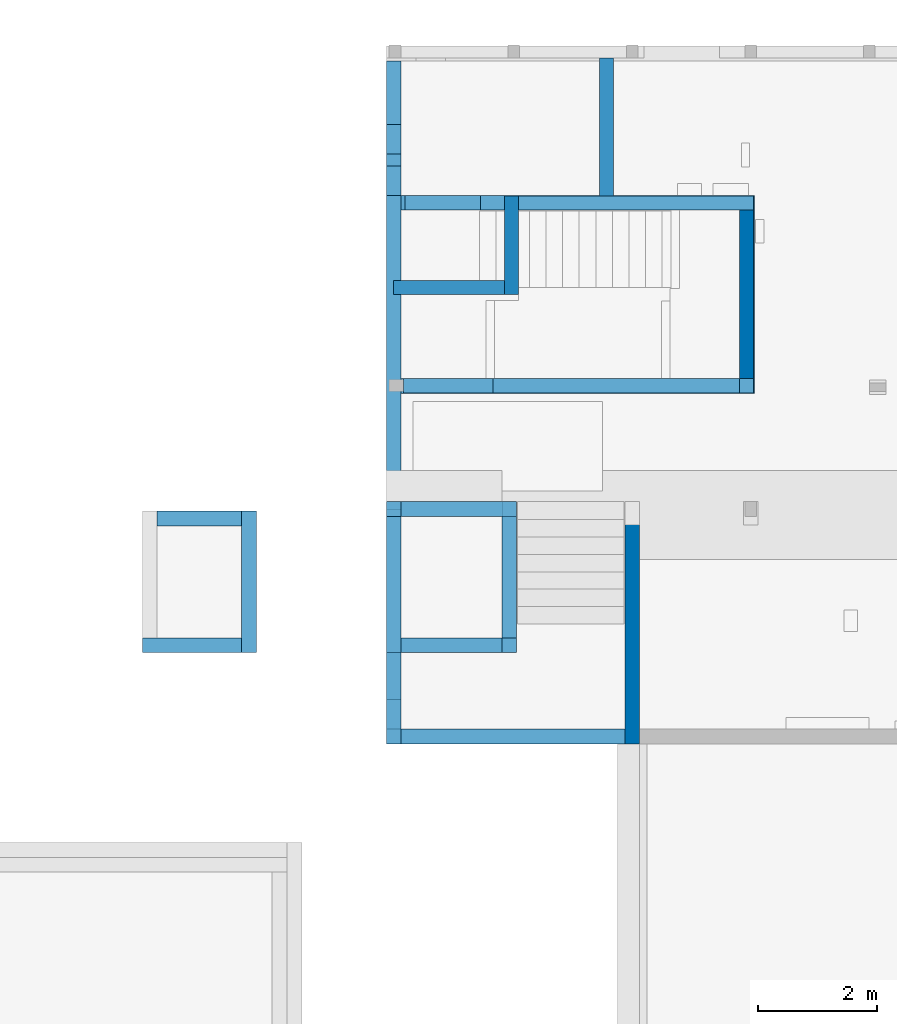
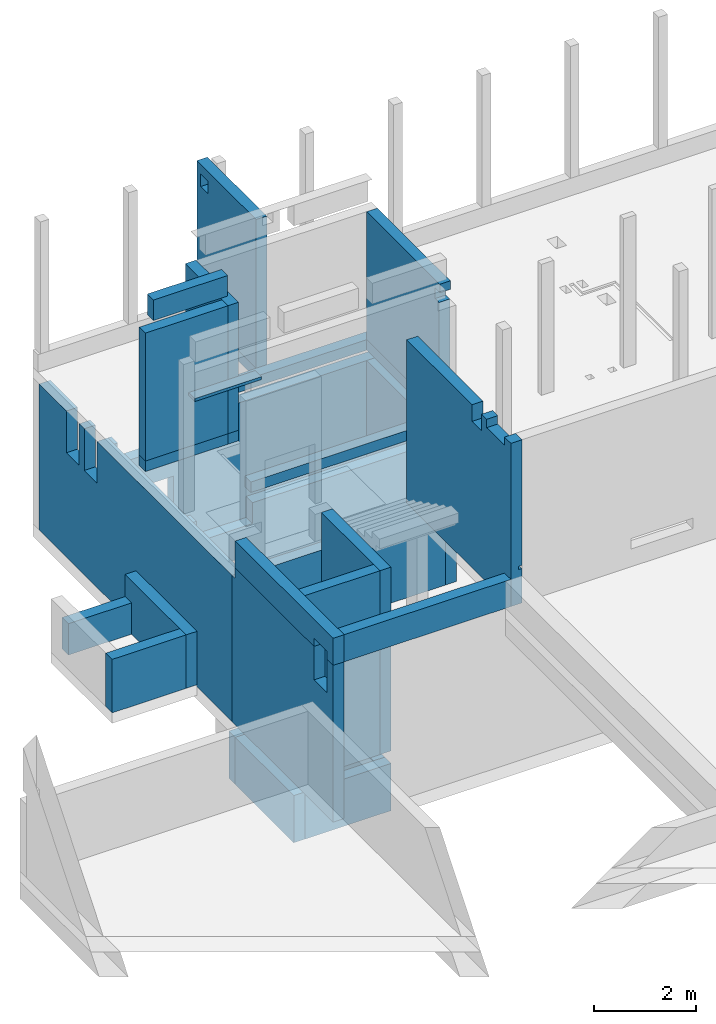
# One storey, part 7 of 12: 29 walls, 16 openings.
"""IFC2X3 building model written with IfcOpenShell, lengths in metres."""

from ifc_helpers import new_model, entity, si_unit, converted_unit, direction, frame, frame_2d, origin, place, context, subcontext, project, spatial, polyline, rectangle, outline, extrude, clip, bounded_halfspace, material, layer, layer_set, layer_usage, type_object, element, save


model = new_model("IFC2X3")

# Units and contexts
model_context = context("Model", 3, precision=1e-05, world=frame((30.086303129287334, 2.687674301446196, 462.0)), true_north=direction((0.19008937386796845, 0.9817667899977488)))
body_context = subcontext(model_context, "Body", "Model", "MODEL_VIEW")
ifc_project = project(units=[si_unit("LENGTHUNIT", "METRE"), si_unit("AREAUNIT", "SQUARE_METRE"), converted_unit("PLANEANGLEUNIT", "DEGREE", entity("IfcPlaneAngleMeasure", 0.017453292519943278), si_unit("PLANEANGLEUNIT", "RADIAN"), dimensions=[0, 0, 0, 0, 0, 0, 0]), si_unit("VOLUMEUNIT", "CUBIC_METRE")], contexts=[model_context])

# Site, building, storey
site_placement = place(None, origin())
site = spatial("IfcSite", under=ifc_project, at=site_placement, Name="Default", CompositionType="ELEMENT")
building_placement = place(site_placement, origin())
building = spatial("IfcBuilding", under=site, at=building_placement, CompositionType="ELEMENT")
storey_placement = place(building_placement, frame((0.0, 0.0, -3.800000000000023)))
storey = spatial("IfcBuildingStorey", under=building, at=storey_placement, Name="FB_U01_OKFB", CompositionType="ELEMENT", Elevation=-3.800000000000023)

# Wall, opening
ifc_material_1 = material(Name="WS_CONCRETE_REINFORCED_WATERTIGHT")
ifc_layer_1 = layer(ifc_material_1, 0.24999999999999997)
ifc_layer_set_1 = layer_set([ifc_layer_1], Name="Basiswand:WS_WAL_CON_250_WT")
ifc_layer_usage_1 = layer_usage(ifc_layer_set_1, "AXIS2", "NEGATIVE", 0.12499999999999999)
wall_type_1 = type_object("IfcWallType", Name="Basiswand:WS_WAL_CON_250_WT", PredefinedType="STANDARD", material=ifc_layer_set_1)
wall_1_placement = place(storey_placement, frame((46.08033900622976, -5.25964843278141, -0.0699999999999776), z_axis=(0.0, 0.0, 1.0), x_axis=(0.0, 1.0, 0.0)))
wall_1 = element("IfcWallStandardCase", 1, at=wall_1_placement, inside=storey, type_object=wall_type_1, material=ifc_layer_usage_1, Name="Basiswand:WS_WAL_CON_250_WT", ObjectType="Basiswand:WS_WAL_CON_250_WT", context=body_context, shape_type="Clipping", body=[
    clip(clip(extrude(rectangle(XDim=3.9650006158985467, YDim=0.25000000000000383, at=frame_2d((1.9825003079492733, -4.336808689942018e-15), x_axis=(-1.0, 0.0))), origin(), (0.0, 0.0, 1.0), 3.7500000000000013), bounded_halfspace(frame((3.840000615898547, 0.12499999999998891, 3.500000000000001), z_axis=(0.0, 0.0, -1.0), x_axis=(-1.0, 0.0, 0.0)), True, frame((3.840000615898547, 0.12499999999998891, 3.500000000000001), z_axis=(0.0, 0.0, -1.0), x_axis=(-1.0, 0.0, 0.0)), polyline([(0.0, 0.0), (-0.12499999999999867, 0.0), (-0.12499999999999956, -0.24999999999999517), (0.0, -0.24999999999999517), (0.0, 0.0)]))), bounded_halfspace(frame((3.840000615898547, -0.12500000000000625, 3.500000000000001), z_axis=(-1.0, 0.0, 0.0), x_axis=(0.0, 0.0, 1.0)), True, frame((3.840000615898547, -0.12500000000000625, 3.500000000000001), z_axis=(-1.0, 0.0, 0.0), x_axis=(0.0, 0.0, 1.0)), polyline([(0.0, 0.0), (0.0762, 0.0), (0.0762, 0.07620000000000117), (0.0, 0.07620000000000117), (0.0, 0.0)]))),
])
opening_1_placement = place(wall_1_placement, origin())
element("IfcOpeningElement", 2, at=opening_1_placement, cuts=wall_1, Name="Basiswand:WS_WAL_CON_250_WT", ObjectType="Opening", context=body_context, shape_type="SweptSolid", body=[
    extrude(rectangle(XDim=0.9999999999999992, YDim=0.49999999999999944, at=frame_2d((0.0, -2.636779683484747e-16), x_axis=(1.0, 0.0))), frame((0.499999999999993, -0.12500000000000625, 3.44999999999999), z_axis=(0.0, 1.0, 0.0), x_axis=(0.0, 0.0, -1.0)), (0.0, 0.0, 1.0), 0.24999999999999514),
])

# Walls
ifc_layer_usage_2 = layer_usage(ifc_layer_set_1, "AXIS2", "NEGATIVE", 0.12499999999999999)
wall_2_placement = place(storey_placement, frame((45.955339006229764, -1.2946478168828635, -1.4999999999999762)))
element("IfcWallStandardCase", 3, at=wall_2_placement, inside=storey, type_object=wall_type_1, material=ifc_layer_usage_2, Name="Basiswand:WS_WAL_CON_250_WT", ObjectType="Basiswand:WS_WAL_CON_250_WT", context=body_context, shape_type="Clipping", body=[
    clip(extrude(rectangle(XDim=1.9499996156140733, YDim=0.25, at=frame_2d((0.9749998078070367, 0.0), x_axis=(-1.0, 0.0))), origin(), (0.0, 0.0, 1.0), 1.1299999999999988), bounded_halfspace(frame((0.24999999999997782, -0.125, 1.1299999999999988), z_axis=(0.0, 0.0, -1.0), x_axis=(-1.0, 0.0, 0.0)), True, frame((0.24999999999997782, -0.125, 1.1299999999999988), z_axis=(0.0, 0.0, -1.0), x_axis=(-1.0, 0.0, 0.0)), polyline([(0.0, 0.0), (0.24999999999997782, 0.0), (0.24999999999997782, 0.25), (-1.6999996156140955, 0.25), (-1.6999996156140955, 0.0), (0.0, 0.0)]))),
])
ifc_layer_usage_3 = layer_usage(ifc_layer_set_1, "AXIS2", "NEGATIVE", 0.12499999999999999)
wall_3_placement = place(storey_placement, frame((46.080339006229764, -3.719608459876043, -1.4999999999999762), z_axis=(0.0, 0.0, 1.0), x_axis=(0.0, 1.0, 0.0)))
element("IfcWallStandardCase", 4, at=wall_3_placement, inside=storey, type_object=wall_type_1, material=ifc_layer_usage_3, Name="Basiswand:WS_WAL_CON_250_WT", ObjectType="Basiswand:WS_WAL_CON_250_WT", context=body_context, shape_type="Clipping", body=[
    clip(extrude(rectangle(XDim=2.2999606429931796, YDim=0.24999999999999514, at=frame_2d((1.1499803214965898, 0.0), x_axis=(-1.0, 0.0))), origin(), (0.0, 0.0, 1.0), 1.1299999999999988), bounded_halfspace(frame((0.24999999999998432, -0.12500000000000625, 1.1299999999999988), z_axis=(0.0, 0.0, -1.0), x_axis=(0.0, 1.0, 0.0)), True, frame((0.24999999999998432, -0.12500000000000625, 1.1299999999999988), z_axis=(0.0, 0.0, -1.0), x_axis=(0.0, 1.0, 0.0)), polyline([(0.0, 0.0), (0.0, -0.24999999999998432), (0.25000000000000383, -0.24999999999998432), (0.25000000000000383, 2.049960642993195), (0.0, 2.049960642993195), (0.0, 0.0)]))),
])
ifc_layer_usage_4 = layer_usage(ifc_layer_set_1, "AXIS2", "NEGATIVE", 0.12499999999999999)
wall_4_placement = place(storey_placement, frame((48.15533862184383, -3.5946084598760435, -1.4999999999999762), z_axis=(0.0, 0.0, 1.0), x_axis=(-1.0, 0.0, 0.0)))
element("IfcWallStandardCase", 5, at=wall_4_placement, inside=storey, type_object=wall_type_1, material=ifc_layer_usage_4, Name="Basiswand:WS_WAL_CON_250_WT", ObjectType="Basiswand:WS_WAL_CON_250_WT", context=body_context, shape_type="Clipping", body=[
    clip(extrude(rectangle(XDim=1.9499996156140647, YDim=0.24999999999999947, at=frame_2d((0.9749998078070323, 0.0), x_axis=(-1.0, 0.0))), origin(), (0.0, 0.0, 1.0), 1.1299999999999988), bounded_halfspace(frame((0.2499999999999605, -0.12500000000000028, 1.1299999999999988), z_axis=(0.0, 0.0, -1.0), x_axis=(1.0, 0.0, 0.0)), True, frame((0.2499999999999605, -0.12500000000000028, 1.1299999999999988), z_axis=(0.0, 0.0, -1.0), x_axis=(1.0, 0.0, 0.0)), polyline([(0.0, 0.0), (-0.2499999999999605, 0.0), (-0.2499999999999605, -0.25), (1.6999996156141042, -0.25), (1.6999996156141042, 0.0), (0.0, 0.0)]))),
])
ifc_layer_usage_5 = layer_usage(ifc_layer_set_1, "AXIS2", "NEGATIVE", 0.12499999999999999)
wall_5_placement = place(storey_placement, frame((48.030338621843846, -1.169647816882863, -1.4999999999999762), z_axis=(0.0, 0.0, 1.0), x_axis=(0.0, -1.0, 0.0)))
element("IfcWallStandardCase", 6, at=wall_5_placement, inside=storey, type_object=wall_type_1, material=ifc_layer_usage_5, Name="Basiswand:WS_WAL_CON_250_WT", ObjectType="Basiswand:WS_WAL_CON_250_WT", context=body_context, shape_type="Clipping", body=[
    clip(extrude(rectangle(XDim=2.299960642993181, YDim=0.24999999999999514, at=frame_2d((1.1499803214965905, 0.0), x_axis=(-1.0, 0.0))), origin(), (0.0, 0.0, 1.0), 1.1299999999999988), bounded_halfspace(frame((0.25000000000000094, -0.12500000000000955, 1.1299999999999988), z_axis=(0.0, 0.0, -1.0), x_axis=(0.0, -1.0, 0.0)), True, frame((0.25000000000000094, -0.12500000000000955, 1.1299999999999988), z_axis=(0.0, 0.0, -1.0), x_axis=(0.0, -1.0, 0.0)), polyline([(0.0, 0.0), (0.0, 0.25), (-0.2500000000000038, 0.25000000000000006), (-0.2500000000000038, -0.7249999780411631), (-0.24999999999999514, -2.0499606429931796), (0.0, -2.04996064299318), (0.0, 0.0)]))),
])

# Wall, opening
ifc_layer_usage_6 = layer_usage(ifc_layer_set_1, "AXIS2", "NEGATIVE", 0.12499999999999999)
wall_6_placement = place(storey_placement, frame((46.080339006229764, -1.419647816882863, 3.6800000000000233), z_axis=(0.0, 0.0, 1.0), x_axis=(0.0, -1.0, 0.0)))
wall_6 = element("IfcWallStandardCase", 7, at=wall_6_placement, inside=storey, type_object=wall_type_1, material=ifc_layer_usage_6, Name="Basiswand:WS_WAL_CON_250_WT", ObjectType="Basiswand:WS_WAL_CON_250_WT", context=body_context, shape_type="SweptSolid", body=[
    extrude(rectangle(XDim=3.840000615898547, YDim=0.25000000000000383, at=frame_2d((1.9200003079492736, -4.336808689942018e-15), x_axis=(1.0, 0.0))), origin(), (0.0, 0.0, 1.0), 0.6499999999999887),
])
opening_2_placement = place(wall_6_placement, origin())
element("IfcOpeningElement", 8, at=opening_2_placement, cuts=wall_6, Name="Basiswand:WS_WAL_CON_250_WT", ObjectType="Opening", context=body_context, shape_type="SweptSolid", body=[
    extrude(rectangle(XDim=0.9999999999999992, YDim=0.49999999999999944, at=frame_2d((0.0, 2.636779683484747e-16), x_axis=(1.0, 0.0))), frame((3.340000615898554, -0.12499999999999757, -0.300000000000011), z_axis=(0.0, 1.0, 0.0), x_axis=(0.0, 0.0, -1.0)), (0.0, 0.0, 1.0), 0.24999999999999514),
])

# Wall
ifc_layer_usage_7 = layer_usage(ifc_layer_set_1, "AXIS2", "NEGATIVE", 0.12499999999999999)
wall_7_placement = place(storey_placement, frame((46.205339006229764, -5.134648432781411, 3.6800000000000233)))
element("IfcWallStandardCase", 9, at=wall_7_placement, inside=storey, type_object=wall_type_1, material=ifc_layer_usage_7, Name="Basiswand:WS_WAL_CON_250_WT", ObjectType="Basiswand:WS_WAL_CON_250_WT", context=body_context, shape_type="SweptSolid", body=[
    extrude(rectangle(XDim=3.7749984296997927, YDim=0.24999999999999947, at=frame_2d((1.8874992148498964, 1.3183898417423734e-16), x_axis=(-1.0, 0.0))), origin(), (0.0, 0.0, 1.0), 0.6499999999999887),
])

# Wall, openings
ifc_layer_usage_8 = layer_usage(ifc_layer_set_1, "AXIS2", "NEGATIVE", 0.12499999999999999)
wall_8_placement = place(storey_placement, frame((46.08033900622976, -1.2946478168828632, -0.0699999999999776), z_axis=(0.0, 0.0, 1.0), x_axis=(0.0, 1.0, 0.0)))
wall_8 = element("IfcWallStandardCase", 10, at=wall_8_placement, inside=storey, type_object=wall_type_1, material=ifc_layer_usage_8, Name="Basiswand:WS_WAL_CON_250_WT", ObjectType="Basiswand:WS_WAL_CON_250_WT", context=body_context, shape_type="SweptSolid", body=[
    extrude(rectangle(XDim=7.559998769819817, YDim=0.25000000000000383, at=frame_2d((3.7799993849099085, -4.336808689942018e-15), x_axis=(-1.0, 0.0))), origin(), (0.0, 0.0, 1.0), 3.5000000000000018),
])
opening_3_placement = place(wall_8_placement, origin())
element("IfcOpeningElement", 11, at=opening_3_placement, cuts=wall_8, Name="Basiswand:WS_WAL_CON_250_WT", ObjectType="Opening", context=body_context, shape_type="SweptSolid", body=[
    extrude(rectangle(XDim=0.9999999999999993, YDim=0.5, at=frame_2d((-1.3877787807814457e-16, 0.0), x_axis=(1.0, 0.0))), frame((5.539998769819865, -0.12499999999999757, 3.0), z_axis=(0.0, 1.0, 0.0), x_axis=(0.0, 0.0, -1.0)), (0.0, 0.0, 1.0), 0.24999999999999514),
])
opening_4_placement = place(wall_8_placement, origin())
element("IfcOpeningElement", 12, at=opening_4_placement, cuts=wall_8, Name="Basiswand:WS_WAL_CON_250_WT", ObjectType="Opening", context=body_context, shape_type="SweptSolid", body=[
    extrude(rectangle(XDim=0.9999999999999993, YDim=0.5, at=frame_2d((-1.3877787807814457e-16, 1.0824674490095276e-15), x_axis=(1.0, 0.0))), frame((6.2399987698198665, -0.12499999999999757, 3.0), z_axis=(0.0, 1.0, 0.0), x_axis=(0.0, 0.0, -1.0)), (0.0, 0.0, 1.0), 0.24999999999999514),
])

# Wall, opening
ifc_material_2 = material(Name="WS_CONCRETE_REINFORCED")
ifc_layer_2 = layer(ifc_material_2, 0.24999999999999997)
ifc_layer_set_2 = layer_set([ifc_layer_2], Name="Basiswand:WS_WAL_CON_250")
ifc_layer_usage_9 = layer_usage(ifc_layer_set_2, "AXIS2", "NEGATIVE", 0.12499999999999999)
wall_type_2 = type_object("IfcWallType", Name="Basiswand:WS_WAL_CON_250", PredefinedType="STANDARD", material=ifc_layer_set_2)
wall_9_placement = place(storey_placement, frame((46.205339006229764, -1.2946478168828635, -0.0699999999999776)))
wall_9 = element("IfcWallStandardCase", 13, at=wall_9_placement, inside=storey, type_object=wall_type_2, material=ifc_layer_usage_9, Name="Basiswand:WS_WAL_CON_250", ObjectType="Basiswand:WS_WAL_CON_250", context=body_context, shape_type="SweptSolid", body=[
    extrude(rectangle(XDim=1.949999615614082, YDim=0.2500000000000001, at=frame_2d((0.974999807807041, 2.7755575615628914e-17), x_axis=(-1.0, 0.0))), origin(), (0.0, 0.0, 1.0), 3.500000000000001),
])
opening_5_placement = place(wall_9_placement, frame((-46.205339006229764, 1.2946478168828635, 0.06999999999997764)))
element("IfcOpeningElement", 14, at=opening_5_placement, cuts=wall_9, Name="Basiswand:WS_WAL_CON_250", ObjectType="Opening", context=body_context, shape_type="SweptSolid", body=[
    extrude(rectangle(XDim=2.219999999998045, YDim=1.22, at=frame_2d((1.1102230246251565e-16, 0.0), x_axis=(1.0, 0.0))), frame((47.155338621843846, -2.6936478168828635, 1.0399999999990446), z_axis=(0.0, 1.0, 0.0), x_axis=(0.0, 0.0, 1.0)), (0.0, 0.0, 1.0), 3.048),
])

# Walls
ifc_layer_usage_10 = layer_usage(ifc_layer_set_2, "AXIS2", "NEGATIVE", 0.12499999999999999)
wall_10_placement = place(storey_placement, frame((48.030338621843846, -1.4196478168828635, -0.0699999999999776), z_axis=(0.0, 0.0, 1.0), x_axis=(0.0, -1.0, 0.0)))
element("IfcWallStandardCase", 15, at=wall_10_placement, inside=storey, type_object=wall_type_2, material=ifc_layer_usage_10, Name="Basiswand:WS_WAL_CON_250", ObjectType="Basiswand:WS_WAL_CON_250", context=body_context, shape_type="SweptSolid", body=[
    extrude(rectangle(XDim=2.2999606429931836, YDim=0.24999999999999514, at=frame_2d((1.1499803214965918, 0.0), x_axis=(-1.0, 0.0))), origin(), (0.0, 0.0, 1.0), 4.39999999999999),
])
ifc_layer_usage_11 = layer_usage(ifc_layer_set_2, "AXIS2", "NEGATIVE", 0.12499999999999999)
wall_11_placement = place(storey_placement, frame((47.90533862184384, -3.5946084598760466, -0.0699999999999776), z_axis=(0.0, 0.0, 1.0), x_axis=(-1.0, 0.0, 0.0)))
element("IfcWallStandardCase", 16, at=wall_11_placement, inside=storey, type_object=wall_type_2, material=ifc_layer_usage_11, Name="Basiswand:WS_WAL_CON_250", ObjectType="Basiswand:WS_WAL_CON_250", context=body_context, shape_type="SweptSolid", body=[
    extrude(rectangle(XDim=1.6999996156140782, YDim=0.24999999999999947, at=frame_2d((0.8499998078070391, 0.0), x_axis=(-1.0, 0.0))), origin(), (0.0, 0.0, 1.0), 4.39999999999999),
])

# Wall, openings
ifc_layer_usage_12 = layer_usage(ifc_layer_set_2, "AXIS2", "POSITIVE", -0.12499999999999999)
wall_12_placement = place(storey_placement, frame((50.10533743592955, -5.2596484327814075, 3.6800000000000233), z_axis=(0.0, 0.0, 1.0), x_axis=(0.0, 1.0, 0.0)))
wall_12 = element("IfcWallStandardCase", 17, at=wall_12_placement, inside=storey, type_object=wall_type_2, material=ifc_layer_usage_12, Name="Basiswand:WS_WAL_CON_250", ObjectType="Basiswand:WS_WAL_CON_250", context=body_context, shape_type="Clipping", body=[
    clip(extrude(rectangle(XDim=4.090000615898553, YDim=0.2500000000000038, at=frame_2d((2.0450003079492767, -5.5164206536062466e-15), x_axis=(-1.0, 0.0))), origin(), (0.0, 0.0, 1.0), 3.905), bounded_halfspace(frame((2.1400006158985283, -0.12499999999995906, 0.8999999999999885), z_axis=(1.0, 0.0, 0.0), x_axis=(0.0, 0.0, 1.0)), True, frame((2.1400006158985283, -0.12499999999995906, 0.8999999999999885), z_axis=(1.0, 0.0, 0.0), x_axis=(0.0, 0.0, 1.0)), polyline([(0.0, 0.0), (-0.07620000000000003, 0.0), (-0.07620000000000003, -0.07619999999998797), (-0.03657600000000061, -0.07619999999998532), (0.0, -0.07619999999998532), (0.0, 0.0)]))),
])
opening_6_placement = place(wall_12_placement, origin())
element("IfcOpeningElement", 18, at=opening_6_placement, cuts=wall_12, Name="Basiswand:WS_WAL_CON_250", ObjectType="Opening", context=body_context, shape_type="SweptSolid", body=[
    extrude(rectangle(XDim=0.2, YDim=0.6993435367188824, at=frame_2d((2.706168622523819e-16, 2.7755575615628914e-16), x_axis=(1.0, 0.0))), frame((0.6003282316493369, -0.12499992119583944, 3.80500000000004), z_axis=(0.0, 1.0, 0.0), x_axis=(0.0, 0.0, -1.0)), (0.0, 0.0, 1.0), 0.24999999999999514),
])
opening_7_placement = place(wall_12_placement, origin())
element("IfcOpeningElement", 19, at=opening_7_placement, cuts=wall_12, Name="Basiswand:WS_WAL_CON_250", ObjectType="Opening", context=body_context, shape_type="SweptSolid", body=[
    extrude(rectangle(XDim=0.40000000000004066, YDim=0.3750399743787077, at=frame_2d((2.7755575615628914e-16, -2.7755575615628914e-16), x_axis=(1.0, 0.0))), frame((1.3381764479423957, -0.1250000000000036, 3.70500000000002), z_axis=(0.0, 1.0, 0.0), x_axis=(0.0, 0.0, -1.0)), (0.0, 0.0, 1.0), 0.24999999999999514),
])

# Walls
ifc_layer_usage_13 = layer_usage(ifc_layer_set_2, "AXIS2", "NEGATIVE", 0.12499999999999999)
wall_13_placement = place(storey_placement, frame((43.6403329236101, -1.32964779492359, 3.050000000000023), z_axis=(0.0, 0.0, 1.0), x_axis=(0.0, -1.0, 0.0)))
element("IfcWallStandardCase", 20, at=wall_13_placement, inside=storey, type_object=wall_type_2, material=ifc_layer_usage_13, Name="Basiswand:WS_WAL_CON_250", ObjectType="Basiswand:WS_WAL_CON_250", context=body_context, shape_type="Clipping", body=[
    clip(extrude(rectangle(XDim=2.3899606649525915, YDim=0.24999999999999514, at=frame_2d((1.1949803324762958, 0.0), x_axis=(-1.0, 0.0))), origin(), (0.0, 0.0, 1.0), 1.2799999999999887), bounded_halfspace(frame((2.1399606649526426, -0.12500000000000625, 1.2799999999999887), z_axis=(0.0, 0.0, -1.0), x_axis=(0.0, -1.0, 0.0)), True, frame((2.1399606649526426, -0.12500000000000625, 1.2799999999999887), z_axis=(0.0, 0.0, -1.0), x_axis=(0.0, -1.0, 0.0)), polyline([(0.0, 0.0), (0.0, 2.1399606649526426), (-0.25000000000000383, 2.1399606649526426), (-0.25000000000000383, 1.639960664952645), (-0.25000000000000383, -0.24999999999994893), (0.0, -0.24999999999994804), (0.0, 0.0)]))),
])
ifc_layer_usage_14 = layer_usage(ifc_layer_set_2, "AXIS2", "NEGATIVE", 0.12499999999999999)
wall_14_placement = place(storey_placement, frame((43.515332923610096, -3.594608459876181, 3.050000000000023), z_axis=(0.0, 0.0, 1.0), x_axis=(-1.0, 0.0, 0.0)))
element("IfcWallStandardCase", 21, at=wall_14_placement, inside=storey, type_object=wall_type_2, material=ifc_layer_usage_14, Name="Basiswand:WS_WAL_CON_250", ObjectType="Basiswand:WS_WAL_CON_250", context=body_context, shape_type="SweptSolid", body=[
    extrude(rectangle(XDim=1.6749995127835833, YDim=0.24999999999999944, at=frame_2d((0.8374997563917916, 2.5673907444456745e-16), x_axis=(-1.0, 0.0))), origin(), (0.0, 0.0, 1.0), 1.2799999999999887),
])

# Wall, openings
ifc_layer_usage_15 = layer_usage(ifc_layer_set_2, "AXIS2", "NEGATIVE", 0.12499999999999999)
wall_15_placement = place(storey_placement, frame((46.205339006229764, 3.8703914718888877, -0.0699999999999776)))
wall_15 = element("IfcWallStandardCase", 22, at=wall_15_placement, inside=storey, type_object=wall_type_2, material=ifc_layer_usage_15, Name="Basiswand:WS_WAL_CON_250", ObjectType="Basiswand:WS_WAL_CON_250", context=body_context, shape_type="SweptSolid", body=[
    extrude(rectangle(XDim=5.959997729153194, YDim=0.25, at=frame_2d((2.979998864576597, -1.734723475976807e-16), x_axis=(1.0, 0.0))), origin(), (0.0, 0.0, 1.0), 3.5000000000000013),
])
opening_8_placement = place(wall_15_placement, origin())
element("IfcOpeningElement", 23, at=opening_8_placement, cuts=wall_15, Name="Basiswand:WS_WAL_CON_250", ObjectType="Opening", context=body_context, shape_type="SweptSolid", body=[
    extrude(rectangle(XDim=0.4999999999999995, YDim=1.2699999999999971, at=frame_2d((0.0, -4.3298697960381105e-15), x_axis=(1.0, 0.0))), frame((0.704999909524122, -0.12499999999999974, 3.2500000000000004), z_axis=(0.0, 1.0, 0.0), x_axis=(0.0, 0.0, -1.0)), (0.0, 0.0, 1.0), 0.2499999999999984),
])
opening_9_placement = place(wall_15_placement, frame((-46.205339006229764, -3.8703914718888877, 0.06999999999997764)))
element("IfcOpeningElement", 24, at=opening_9_placement, cuts=wall_15, Name="Basiswand:WS_WAL_CON_250", ObjectType="Opening", context=body_context, shape_type="SweptSolid", body=[
    extrude(rectangle(XDim=2.264999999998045, YDim=1.2700000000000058, at=frame_2d((0.0, -1.1102230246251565e-16), x_axis=(0.0, 1.0))), frame((46.9103389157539, 2.221391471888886, 1.0624999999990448), z_axis=(0.0, 1.0, 0.0), x_axis=(-1.0, 0.0, 0.0)), (0.0, 0.0, 1.0), 3.048),
])

ifc_layer_usage_16 = layer_usage(ifc_layer_set_2, "AXIS2", "NEGATIVE", 0.12499999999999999)
wall_16_placement = place(storey_placement, frame((46.205339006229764, 0.7803516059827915, -0.0699999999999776)))
wall_16 = element("IfcWallStandardCase", 25, at=wall_16_placement, inside=storey, type_object=wall_type_2, material=ifc_layer_usage_16, Name="Basiswand:WS_WAL_CON_250", ObjectType="Basiswand:WS_WAL_CON_250", context=body_context, shape_type="SweptSolid", body=[
    extrude(rectangle(XDim=0.25, YDim=5.709997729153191, at=frame_2d((2.8549988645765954, 2.0816681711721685e-17), x_axis=(0.0, -1.0))), origin(), (0.0, 0.0, 1.0), 3.500000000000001),
])
opening_10_placement = place(wall_16_placement, origin())
element("IfcOpeningElement", 26, at=opening_10_placement, cuts=wall_16, Name="Basiswand:WS_WAL_CON_250", ObjectType="Opening", context=body_context, shape_type="SweptSolid", body=[
    extrude(rectangle(XDim=0.4999999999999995, YDim=1.2699999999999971, at=frame_2d((0.0, -4.3298697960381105e-15), x_axis=(1.0, 0.0))), frame((0.7049999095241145, -0.12499999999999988, 3.2500000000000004), z_axis=(0.0, 1.0, 0.0), x_axis=(0.0, 0.0, -1.0)), (0.0, 0.0, 1.0), 0.2499999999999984),
])
opening_11_placement = place(wall_16_placement, frame((-46.205339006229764, -0.7803516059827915, 0.06999999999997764)))
element("IfcOpeningElement", 27, at=opening_11_placement, cuts=wall_16, Name="Basiswand:WS_WAL_CON_250", ObjectType="Opening", context=body_context, shape_type="SweptSolid", body=[
    extrude(rectangle(XDim=2.264999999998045, YDim=1.2700000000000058, at=frame_2d((-8.659739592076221e-15, -1.1102230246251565e-16), x_axis=(0.0, 1.0))), frame((46.910338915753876, -0.8686483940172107, 1.0624999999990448), z_axis=(0.0, 1.0, 0.0), x_axis=(-1.0, 0.0, 0.0)), (0.0, 0.0, 1.0), 3.048),
])

# Walls
ifc_layer_usage_17 = layer_usage(ifc_layer_set_2, "AXIS2", "NEGATIVE", 0.12499999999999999)
wall_17_placement = place(storey_placement, frame((52.04033673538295, 0.6553516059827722, -0.0699999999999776), z_axis=(0.0, 0.0, 1.0), x_axis=(0.0, 1.0, 0.0)))
element("IfcWallStandardCase", 28, at=wall_17_placement, inside=storey, type_object=wall_type_2, material=ifc_layer_usage_17, Name="Basiswand:WS_WAL_CON_250", ObjectType="Basiswand:WS_WAL_CON_250", context=body_context, shape_type="SweptSolid", body=[
    extrude(rectangle(XDim=3.0900398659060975, YDim=0.24999999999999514, at=frame_2d((1.5450199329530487, -1.8735013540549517e-16), x_axis=(-1.0, 0.0))), origin(), (0.0, 0.0, 1.0), 3.500000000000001),
])
ifc_layer_usage_18 = layer_usage(ifc_layer_set_2, "AXIS2", "POSITIVE", -0.12499999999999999)
wall_18_placement = place(storey_placement, frame((43.515332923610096, -1.4546477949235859, 3.050000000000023), z_axis=(0.0, 0.0, 1.0), x_axis=(-1.0, 0.0, 0.0)))
element("IfcWallStandardCase", 29, at=wall_18_placement, inside=storey, type_object=wall_type_2, material=ifc_layer_usage_18, Name="Basiswand:WS_WAL_CON_250", ObjectType="Basiswand:WS_WAL_CON_250", context=body_context, shape_type="SweptSolid", body=[
    extrude(rectangle(XDim=1.4249995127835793, YDim=0.25, at=frame_2d((0.7124997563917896, 1.249000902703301e-16), x_axis=(-1.0, 0.0))), origin(), (0.0, 0.0, 1.0), 0.7499999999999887),
])

# Wall, opening
ifc_material_3 = material(Name="WS_MASONRY")
ifc_layer_3 = layer(ifc_material_3, 0.24)
ifc_layer_set_3 = layer_set([ifc_layer_3], Name="Basiswand:WS_WAL_MAS_240")
ifc_layer_usage_19 = layer_usage(ifc_layer_set_3, "AXIS2", "POSITIVE", -0.12)
wall_type_3 = type_object("IfcWallType", Name="Basiswand:WS_WAL_MAS_240", PredefinedType="STANDARD", material=ifc_layer_set_3)
wall_19_placement = place(storey_placement, frame((49.67033792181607, 3.9853914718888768, 3.930000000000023), z_axis=(0.0, 0.0, 1.0), x_axis=(0.0, 1.0, 0.0)))
wall_19 = element("IfcWallStandardCase", 30, at=wall_19_placement, inside=storey, type_object=wall_type_3, material=ifc_layer_usage_19, Name="Basiswand:WS_WAL_MAS_240", ObjectType="Basiswand:WS_WAL_MAS_240", context=body_context, shape_type="SweptSolid", body=[
    extrude(rectangle(XDim=2.3249602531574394, YDim=0.2399999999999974, at=frame_2d((1.1624801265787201, -9.298117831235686e-16), x_axis=(-1.0, 0.0))), origin(), (0.0, 0.0, 1.0), 3.556999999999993),
])
opening_12_placement = place(wall_19_placement, origin())
element("IfcOpeningElement", 31, at=opening_12_placement, cuts=wall_19, Name="Basiswand:WS_WAL_MAS_240", ObjectType="Opening", context=body_context, shape_type="SweptSolid", body=[
    extrude(rectangle(XDim=0.30000000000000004, YDim=0.30000000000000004, at=frame_2d((0.0, 5.412337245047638e-16), x_axis=(1.0, 0.0))), frame((2.029959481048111, -0.12000000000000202, 3.174999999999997), z_axis=(0.0, 1.0, 0.0), x_axis=(0.0, 0.0, -1.0)), (0.0, 0.0, 1.0), 0.2399999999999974),
])

# Wall
wall_20_placement = place(storey_placement, frame((46.08043778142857, 2.4403510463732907, 3.930000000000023)))
element("IfcWall", 32, at=wall_20_placement, inside=storey, type_object=wall_type_3, Name="Basiswand:WS_WAL_MAS_240", ObjectType="Basiswand:WS_WAL_MAS_240", context=body_context, shape_type="SweptSolid", body=[
    extrude(rectangle(XDim=0.2400000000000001, YDim=1.8699000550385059, at=frame_2d((0.0, -4.3298697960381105e-15), x_axis=(1.0, 0.0))), frame((0.9349500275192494, 0.0, 0.0), z_axis=(0.0, 0.0, 1.0), x_axis=(0.0, 1.0, 0.0)), (0.0, 0.0, 1.0), 3.0620000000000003),
    extrude(rectangle(XDim=1.6800011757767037, YDim=0.24000000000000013, at=frame_2d((4.3298697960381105e-15, 2.706168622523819e-16), x_axis=(1.0, 0.0))), frame((1.0249020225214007, 0.0, 3.2999999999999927), z_axis=(0.0, 0.0, 1.0), x_axis=(-1.0, 0.0, 0.0)), (0.0, 0.0, 1.0), 0.49000000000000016),
])

# Wall, opening
ifc_layer_usage_20 = layer_usage(ifc_layer_set_3, "AXIS2", "POSITIVE", -0.12)
wall_21_placement = place(storey_placement, frame((48.070337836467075, 2.3203510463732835, 3.930000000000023), z_axis=(0.0, 0.0, 1.0), x_axis=(0.0, 1.0, 0.0)))
wall_21 = element("IfcWallStandardCase", 33, at=wall_21_placement, inside=storey, type_object=wall_type_3, material=ifc_layer_usage_20, Name="Basiswand:WS_WAL_MAS_240", ObjectType="Basiswand:WS_WAL_MAS_240", context=body_context, shape_type="SweptSolid", body=[
    extrude(rectangle(XDim=1.6650404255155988, YDim=0.2399999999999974, at=frame_2d((0.8325202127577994, 1.2004286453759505e-15), x_axis=(-1.0, 0.0))), origin(), (0.0, 0.0, 1.0), 3.0620000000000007),
])
opening_13_placement = place(wall_21_placement, origin())
element("IfcOpeningElement", 34, at=opening_13_placement, cuts=wall_21, Name="Basiswand:WS_WAL_MAS_240", ObjectType="Opening", context=body_context, shape_type="SweptSolid", body=[
    extrude(rectangle(XDim=0.4899999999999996, YDim=0.23999999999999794, at=frame_2d((-2.7755575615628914e-16, 0.0), x_axis=(1.0, 0.0))), frame((1.5450404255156, -0.1950025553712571, 3.545), z_axis=(0.0, 1.0, 0.0), x_axis=(0.0, 0.0, -1.0)), (0.0, 0.0, 1.0), 0.31500255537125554),
])

# Wall, openings
ifc_layer_usage_21 = layer_usage(ifc_layer_set_3, "AXIS2", "POSITIVE", -0.12)
wall_22_placement = place(storey_placement, frame((52.03533673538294, 0.8803515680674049, 3.930000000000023), z_axis=(0.0, 0.0, 1.0), x_axis=(0.0, 1.0, 0.0)))
wall_22 = element("IfcWallStandardCase", 35, at=wall_22_placement, inside=storey, type_object=wall_type_3, material=ifc_layer_usage_21, Name="Basiswand:WS_WAL_MAS_240", ObjectType="Basiswand:WS_WAL_MAS_240", context=body_context, shape_type="SweptSolid", body=[
    extrude(rectangle(XDim=2.865039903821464, YDim=0.23999999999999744, at=frame_2d((1.432519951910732, 8.673617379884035e-16), x_axis=(-1.0, 0.0))), origin(), (0.0, 0.0, 1.0), 3.0620000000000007),
])
opening_14_placement = place(wall_22_placement, origin())
element("IfcOpeningElement", 36, at=opening_14_placement, cuts=wall_22, Name="Basiswand:WS_WAL_MAS_240", ObjectType="Recess", context=body_context, shape_type="SweptSolid", body=[
    extrude(rectangle(XDim=0.48999999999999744, YDim=0.2399999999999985, at=frame_2d((0.0, -5.412337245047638e-16), x_axis=(1.0, 0.0))), frame((2.9850399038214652, -0.11999999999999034, 3.5449999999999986), z_axis=(0.0, 1.0, 0.0), x_axis=(0.0, 0.0, -1.0)), (0.0, 0.0, 1.0), 0.20999999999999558),
])
opening_15_placement = place(wall_22_placement, origin())
element("IfcOpeningElement", 37, at=opening_15_placement, cuts=wall_22, Name="Basiswand:WS_WAL_MAS_240", ObjectType="Recess", context=body_context, shape_type="SweptSolid", body=[
    extrude(rectangle(XDim=0.48999999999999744, YDim=0.2399999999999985, at=frame_2d((0.0, -6.245004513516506e-17), x_axis=(1.0, 0.0))), frame((-0.09500490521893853, -0.11999999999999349, 3.5449999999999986), z_axis=(0.0, 1.0, 0.0), x_axis=(0.0, 0.0, -1.0)), (0.0, 0.0, 1.0), 0.20999999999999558),
])
opening_16_placement = place(wall_22_placement, origin())
element("IfcOpeningElement", 38, at=opening_16_placement, cuts=wall_22, Name="Basiswand:WS_WAL_MAS_240", ObjectType="Opening", context=body_context, shape_type="SweptSolid", body=[
    extrude(outline(polyline([(-1.036666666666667, -0.0699967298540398), (1.8233333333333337, -0.0699967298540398), (1.8233333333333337, -0.045001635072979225), (-0.7866666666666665, -0.045001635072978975), (-0.7866666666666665, 0.11499836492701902), (-1.036666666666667, 0.11499836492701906), (-1.036666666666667, -0.0699967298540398)])), frame((0.0699967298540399, 0.12000000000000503, 1.8233333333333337), z_axis=(0.0, -1.0, 0.0), x_axis=(0.0, 0.0, -1.0)), (0.0, 0.0, 1.0), 0.24),
])

# Walls
ifc_layer_usage_22 = layer_usage(ifc_layer_set_3, "AXIS2", "NEGATIVE", 0.12)
wall_23_placement = place(storey_placement, frame((48.19033783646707, 3.865391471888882, 3.6800000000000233)))
element("IfcWallStandardCase", 39, at=wall_23_placement, inside=storey, type_object=wall_type_3, material=ifc_layer_usage_22, Name="Basiswand:WS_WAL_MAS_240", ObjectType="Basiswand:WS_WAL_MAS_240", context=body_context, shape_type="SweptSolid", body=[
    extrude(rectangle(XDim=3.9649988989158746, YDim=0.2399999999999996, at=frame_2d((1.9824994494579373, 1.3877787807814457e-16), x_axis=(-1.0, 0.0))), origin(), (0.0, 0.0, 1.0), 0.25),
])
ifc_layer_usage_23 = layer_usage(ifc_layer_set_3, "AXIS2", "POSITIVE", -0.12)
wall_24_placement = place(storey_placement, frame((48.07033783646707, 2.3203510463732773, 3.6800000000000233), z_axis=(0.0, 0.0, 1.0), x_axis=(0.0, 1.0, 0.0)))
element("IfcWallStandardCase", 40, at=wall_24_placement, inside=storey, type_object=wall_type_3, material=ifc_layer_usage_23, Name="Basiswand:WS_WAL_MAS_240", ObjectType="Basiswand:WS_WAL_MAS_240", context=body_context, shape_type="SweptSolid", body=[
    extrude(rectangle(XDim=1.6650404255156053, YDim=0.2399999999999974, at=frame_2d((0.8325202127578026, 1.2004286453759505e-15), x_axis=(-1.0, 0.0))), origin(), (0.0, 0.0, 1.0), 0.24999999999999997),
])
ifc_layer_usage_24 = layer_usage(ifc_layer_set_3, "AXIS2", "POSITIVE", -0.12)
wall_25_placement = place(storey_placement, frame((52.03533673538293, 0.6653516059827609, 3.6800000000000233), z_axis=(0.0, 0.0, 1.0), x_axis=(0.0, 1.0, 0.0)))
element("IfcWallStandardCase", 41, at=wall_25_placement, inside=storey, type_object=wall_type_3, material=ifc_layer_usage_24, Name="Basiswand:WS_WAL_MAS_240", ObjectType="Basiswand:WS_WAL_MAS_240", context=body_context, shape_type="SweptSolid", body=[
    extrude(rectangle(XDim=3.080039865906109, YDim=0.23999999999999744, at=frame_2d((1.5400199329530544, 1.5751289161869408e-15), x_axis=(-1.0, 0.0))), origin(), (0.0, 0.0, 1.0), 0.25),
])
ifc_layer_usage_25 = layer_usage(ifc_layer_set_3, "AXIS2", "POSITIVE", -0.12)
wall_26_placement = place(storey_placement, frame((46.08043778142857, 2.440351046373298, 3.6800000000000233)))
element("IfcWallStandardCase", 42, at=wall_26_placement, inside=storey, type_object=wall_type_3, material=ifc_layer_usage_25, Name="Basiswand:WS_WAL_MAS_240", ObjectType="Basiswand:WS_WAL_MAS_240", context=body_context, shape_type="SweptSolid", body=[
    extrude(rectangle(XDim=1.8699000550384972, YDim=0.23999999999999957, at=frame_2d((0.9349500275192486, -1.8041124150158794e-16), x_axis=(-1.0, 0.0))), origin(), (0.0, 0.0, 1.0), 0.24999999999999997),
])
ifc_layer_usage_26 = layer_usage(ifc_layer_set_3, "AXIS2", "POSITIVE", -0.12)
wall_27_placement = place(storey_placement, frame((49.67033792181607, 3.9853914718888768, 3.6800000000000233), z_axis=(0.0, 0.0, 1.0), x_axis=(0.0, 1.0, 0.0)))
element("IfcWallStandardCase", 43, at=wall_27_placement, inside=storey, type_object=wall_type_3, material=ifc_layer_usage_26, Name="Basiswand:WS_WAL_MAS_240", ObjectType="Basiswand:WS_WAL_MAS_240", context=body_context, shape_type="SweptSolid", body=[
    extrude(rectangle(XDim=2.3249603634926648, YDim=0.2399999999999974, at=frame_2d((1.162480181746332, -9.298117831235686e-16), x_axis=(-1.0, 0.0))), origin(), (0.0, 0.0, 1.0), 0.24999999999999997),
])
ifc_layer_usage_27 = layer_usage(ifc_layer_set_3, "AXIS2", "POSITIVE", -0.12)
wall_28_placement = place(storey_placement, frame((47.51543860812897, 0.7853516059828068, 3.6800000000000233)))
element("IfcWallStandardCase", 44, at=wall_28_placement, inside=storey, type_object=wall_type_3, material=ifc_layer_usage_27, Name="Basiswand:WS_WAL_MAS_240", ObjectType="Basiswand:WS_WAL_MAS_240", context=body_context, shape_type="SweptSolid", body=[
    extrude(rectangle(XDim=4.399898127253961, YDim=0.24000000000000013, at=frame_2d((2.1999490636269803, 0.0), x_axis=(-1.0, 0.0))), origin(), (0.0, 0.0, 1.0), 0.24999999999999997),
])
ifc_layer_4 = layer(ifc_material_2, 0.24)
ifc_layer_set_4 = layer_set([ifc_layer_4], Name="Basiswand:WS_WAL_CON_240")
ifc_layer_usage_28 = layer_usage(ifc_layer_set_4, "AXIS2", "POSITIVE", -0.12)
wall_type_4 = type_object("IfcWallType", Name="Basiswand:WS_WAL_CON_240", PredefinedType="STANDARD", material=ifc_layer_set_4)
wall_29_placement = place(storey_placement, frame((46.245438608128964, 0.7853466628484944, 6.300000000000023)))
element("IfcWallStandardCase", 45, at=wall_29_placement, inside=storey, type_object=wall_type_4, material=ifc_layer_usage_28, Name="Basiswand:WS_WAL_CON_240", ObjectType="Basiswand:WS_WAL_CON_240", context=body_context, shape_type="SweptSolid", body=[
    extrude(rectangle(XDim=1.509070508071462, YDim=0.24000000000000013, at=frame_2d((0.754535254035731, -2.7755575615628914e-17), x_axis=(-1.0, 0.0))), origin(), (0.0, 0.0, 1.0), 0.07099999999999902),
])

save(model, "model.ifc")
